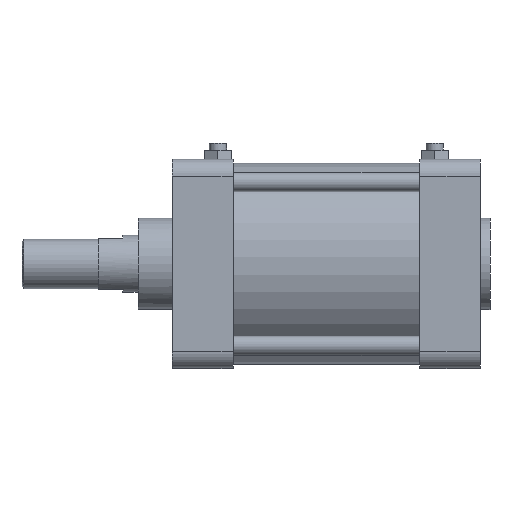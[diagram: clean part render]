
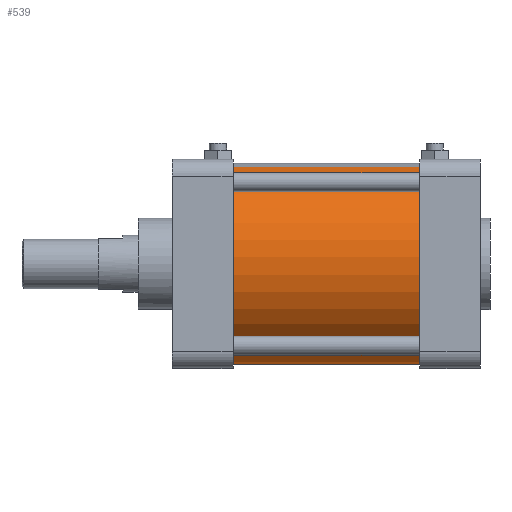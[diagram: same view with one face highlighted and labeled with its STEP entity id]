
A CAD part, front view. The second image highlights one B-rep face of the part: STEP entity #539.
In plain terms, the highlighted cylindrical face has radius 53 mm (diameter 106 mm), a partial arc.
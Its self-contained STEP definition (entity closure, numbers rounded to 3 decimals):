
#140 = VERTEX_POINT ( 'NONE', #926 ) ;
#183 = DIRECTION ( 'NONE',  ( 0., 0., -1. ) ) ;
#280 = DIRECTION ( 'NONE',  ( 0., 0., -1. ) ) ;
#405 = CARTESIAN_POINT ( 'NONE',  ( 49., 0., 0. ) ) ;
#539 = ADVANCED_FACE ( 'NONE', ( #5564 ), #6484, .T. ) ;
#586 = ORIENTED_EDGE ( 'NONE', *, *, #3218, .F. ) ;
#926 = CARTESIAN_POINT ( 'NONE',  ( 49., 0., 53. ) ) ;
#929 = ORIENTED_EDGE ( 'NONE', *, *, #3228, .T. ) ;
#1029 = AXIS2_PLACEMENT_3D ( 'NONE', #405, #4762, #280 ) ;
#1359 = VERTEX_POINT ( 'NONE', #2888 ) ;
#1591 = CARTESIAN_POINT ( 'NONE',  ( 49., 0., -53. ) ) ;
#1980 = LINE ( 'NONE', #2457, #4787 ) ;
#2169 = CARTESIAN_POINT ( 'NONE',  ( -49., 0., 0. ) ) ;
#2283 = CIRCLE ( 'NONE', #4029, 53. ) ;
#2380 = DIRECTION ( 'NONE',  ( 1., 0., 0. ) ) ;
#2457 = CARTESIAN_POINT ( 'NONE',  ( 62.388, 0., -53. ) ) ;
#2476 = VECTOR ( 'NONE', #3110, 1000. ) ;
#2754 = DIRECTION ( 'NONE',  ( 0., 0., -1. ) ) ;
#2888 = CARTESIAN_POINT ( 'NONE',  ( -49., 0., 53. ) ) ;
#2938 = VERTEX_POINT ( 'NONE', #1591 ) ;
#3110 = DIRECTION ( 'NONE',  ( 1., 0., 0. ) ) ;
#3218 = EDGE_CURVE ( 'NONE', #1359, #140, #4420, .T. ) ;
#3228 = EDGE_CURVE ( 'NONE', #1359, #5301, #2283, .T. ) ;
#3573 = CARTESIAN_POINT ( 'NONE',  ( -49., 0., -53. ) ) ;
#3959 = DIRECTION ( 'NONE',  ( 1., 0., 0. ) ) ;
#3996 = EDGE_CURVE ( 'NONE', #140, #2938, #6815, .T. ) ;
#4029 = AXIS2_PLACEMENT_3D ( 'NONE', #2169, #3959, #183 ) ;
#4071 = CARTESIAN_POINT ( 'NONE',  ( 62.388, 0., 53. ) ) ;
#4420 = LINE ( 'NONE', #4071, #2476 ) ;
#4762 = DIRECTION ( 'NONE',  ( 1., 0., 0. ) ) ;
#4787 = VECTOR ( 'NONE', #5594, 1000. ) ;
#5123 = CARTESIAN_POINT ( 'NONE',  ( 62.388, 0., 0. ) ) ;
#5201 = ORIENTED_EDGE ( 'NONE', *, *, #3996, .F. ) ;
#5301 = VERTEX_POINT ( 'NONE', #3573 ) ;
#5485 = AXIS2_PLACEMENT_3D ( 'NONE', #5123, #2380, #2754 ) ;
#5564 = FACE_OUTER_BOUND ( 'NONE', #6227, .T. ) ;
#5594 = DIRECTION ( 'NONE',  ( 1., 0., 0. ) ) ;
#5876 = EDGE_CURVE ( 'NONE', #5301, #2938, #1980, .T. ) ;
#6227 = EDGE_LOOP ( 'NONE', ( #586, #929, #7284, #5201 ) ) ;
#6484 = CYLINDRICAL_SURFACE ( 'NONE', #5485, 53. ) ;
#6815 = CIRCLE ( 'NONE', #1029, 53. ) ;
#7284 = ORIENTED_EDGE ( 'NONE', *, *, #5876, .T. ) ;
